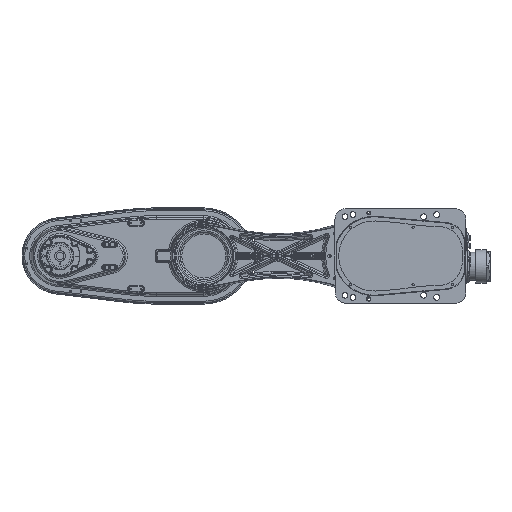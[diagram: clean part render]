
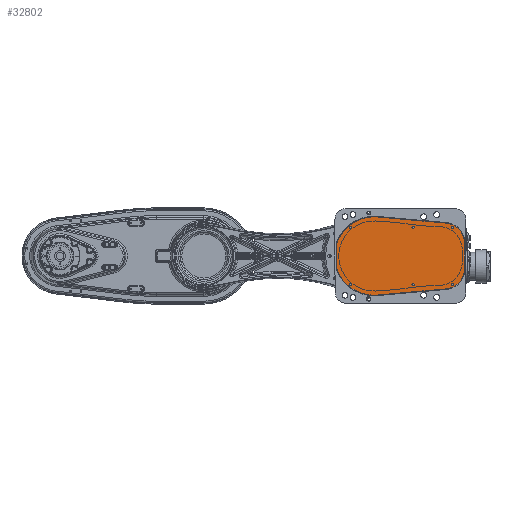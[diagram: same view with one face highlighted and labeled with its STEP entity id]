
A CAD part, front view. The second image highlights one B-rep face of the part: STEP entity #32802.
In plain terms, the highlighted planar face has unit normal (0, -1, 0).
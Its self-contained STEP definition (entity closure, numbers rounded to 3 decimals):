
#7219=DIRECTION('',(0.,0.,1.));
#7220=VECTOR('',#7219,37.094);
#7221=CARTESIAN_POINT('',(-71.,6.,-18.547));
#7222=LINE('',#7221,#7220);
#7223=CARTESIAN_POINT('',(-41.,6.,18.547));
#7224=DIRECTION('',(0.,1.,0.));
#7225=DIRECTION('',(-1.,0.,0.));
#7226=AXIS2_PLACEMENT_3D('',#7223,#7224,#7225);
#7228=CARTESIAN_POINT('',(0.,6.,0.));
#7229=DIRECTION('',(0.,1.,0.));
#7230=DIRECTION('',(-0.911,0.,0.412));
#7231=AXIS2_PLACEMENT_3D('',#7228,#7229,#7230);
#7233=CARTESIAN_POINT('',(0.,6.,0.));
#7234=DIRECTION('',(0.,1.,0.));
#7235=DIRECTION('',(0.,0.,1.));
#7236=AXIS2_PLACEMENT_3D('',#7233,#7234,#7235);
#7238=DIRECTION('',(0.996,0.,-0.09));
#7239=VECTOR('',#7238,132.216);
#7240=CARTESIAN_POINT('',(6.723,6.,74.698));
#7241=LINE('',#7240,#7239);
#7242=CARTESIAN_POINT('',(135.,6.,25.));
#7243=DIRECTION('',(0.,1.,0.));
#7244=DIRECTION('',(0.09,0.,0.996));
#7245=AXIS2_PLACEMENT_3D('',#7242,#7243,#7244);
#7247=DIRECTION('',(0.,0.,-1.));
#7248=VECTOR('',#7247,50.);
#7249=CARTESIAN_POINT('',(173.,6.,25.));
#7250=LINE('',#7249,#7248);
#7251=CARTESIAN_POINT('',(135.,6.,-25.));
#7252=DIRECTION('',(0.,1.,0.));
#7253=DIRECTION('',(1.,0.,0.));
#7254=AXIS2_PLACEMENT_3D('',#7251,#7252,#7253);
#7256=DIRECTION('',(-0.996,0.,-0.09));
#7257=VECTOR('',#7256,132.216);
#7258=CARTESIAN_POINT('',(138.406,6.,-62.847));
#7259=LINE('',#7258,#7257);
#7260=CARTESIAN_POINT('',(0.,6.,0.));
#7261=DIRECTION('',(0.,1.,0.));
#7262=DIRECTION('',(0.09,0.,-0.996));
#7263=AXIS2_PLACEMENT_3D('',#7260,#7261,#7262);
#7265=CARTESIAN_POINT('',(-41.,6.,-18.547));
#7266=DIRECTION('',(0.,1.,0.));
#7267=DIRECTION('',(-0.911,0.,-0.412));
#7268=AXIS2_PLACEMENT_3D('',#7265,#7266,#7267);
#7270=CARTESIAN_POINT('',(-45.,6.,-55.));
#7271=DIRECTION('',(0.,-1.,0.));
#7272=DIRECTION('',(1.,0.,0.));
#7273=AXIS2_PLACEMENT_3D('',#7270,#7271,#7272);
#7275=CARTESIAN_POINT('',(-45.,6.,-55.));
#7276=DIRECTION('',(0.,-1.,0.));
#7277=DIRECTION('',(-1.,0.,0.));
#7278=AXIS2_PLACEMENT_3D('',#7275,#7276,#7277);
#7280=CARTESIAN_POINT('',(-45.,6.,55.));
#7281=DIRECTION('',(0.,-1.,0.));
#7282=DIRECTION('',(1.,0.,0.));
#7283=AXIS2_PLACEMENT_3D('',#7280,#7281,#7282);
#7285=CARTESIAN_POINT('',(-45.,6.,55.));
#7286=DIRECTION('',(0.,-1.,0.));
#7287=DIRECTION('',(-1.,0.,0.));
#7288=AXIS2_PLACEMENT_3D('',#7285,#7286,#7287);
#7290=CARTESIAN_POINT('',(75.,6.,-55.));
#7291=DIRECTION('',(0.,-1.,0.));
#7292=DIRECTION('',(1.,0.,0.));
#7293=AXIS2_PLACEMENT_3D('',#7290,#7291,#7292);
#7295=CARTESIAN_POINT('',(75.,6.,-55.));
#7296=DIRECTION('',(0.,-1.,0.));
#7297=DIRECTION('',(-1.,0.,0.));
#7298=AXIS2_PLACEMENT_3D('',#7295,#7296,#7297);
#7300=CARTESIAN_POINT('',(75.,6.,55.));
#7301=DIRECTION('',(0.,-1.,0.));
#7302=DIRECTION('',(1.,0.,0.));
#7303=AXIS2_PLACEMENT_3D('',#7300,#7301,#7302);
#7305=CARTESIAN_POINT('',(75.,6.,55.));
#7306=DIRECTION('',(0.,-1.,0.));
#7307=DIRECTION('',(-1.,0.,0.));
#7308=AXIS2_PLACEMENT_3D('',#7305,#7306,#7307);
#7310=CARTESIAN_POINT('',(150.,6.,-55.));
#7311=DIRECTION('',(0.,-1.,0.));
#7312=DIRECTION('',(1.,0.,0.));
#7313=AXIS2_PLACEMENT_3D('',#7310,#7311,#7312);
#7315=CARTESIAN_POINT('',(150.,6.,-55.));
#7316=DIRECTION('',(0.,-1.,0.));
#7317=DIRECTION('',(-1.,0.,0.));
#7318=AXIS2_PLACEMENT_3D('',#7315,#7316,#7317);
#7320=CARTESIAN_POINT('',(150.,6.,55.));
#7321=DIRECTION('',(0.,-1.,0.));
#7322=DIRECTION('',(1.,0.,0.));
#7323=AXIS2_PLACEMENT_3D('',#7320,#7321,#7322);
#7325=CARTESIAN_POINT('',(150.,6.,55.));
#7326=DIRECTION('',(0.,-1.,0.));
#7327=DIRECTION('',(-1.,0.,0.));
#7328=AXIS2_PLACEMENT_3D('',#7325,#7326,#7327);
#16976=CARTESIAN_POINT('',(-71.,6.,-18.547));
#16977=CARTESIAN_POINT('',(-71.,6.,18.547));
#16978=VERTEX_POINT('',#16976);
#16979=VERTEX_POINT('',#16977);
#16980=CARTESIAN_POINT('',(-68.333,6.,30.912));
#16981=VERTEX_POINT('',#16980);
#16982=CARTESIAN_POINT('',(0.,6.,75.));
#16983=CARTESIAN_POINT('',(6.723,6.,74.698));
#16984=VERTEX_POINT('',#16982);
#16985=VERTEX_POINT('',#16983);
#16986=CARTESIAN_POINT('',(138.406,6.,62.847));
#16987=VERTEX_POINT('',#16986);
#16988=CARTESIAN_POINT('',(173.,6.,25.));
#16989=VERTEX_POINT('',#16988);
#16990=CARTESIAN_POINT('',(173.,6.,-25.));
#16991=VERTEX_POINT('',#16990);
#16992=CARTESIAN_POINT('',(138.406,6.,-62.847));
#16993=VERTEX_POINT('',#16992);
#16994=CARTESIAN_POINT('',(6.723,6.,-74.698));
#16995=VERTEX_POINT('',#16994);
#16996=CARTESIAN_POINT('',(-68.333,6.,-30.912));
#16997=VERTEX_POINT('',#16996);
#16998=CARTESIAN_POINT('',(-42.75,6.,-55.));
#16999=CARTESIAN_POINT('',(-47.25,6.,-55.));
#17000=VERTEX_POINT('',#16998);
#17001=VERTEX_POINT('',#16999);
#17002=CARTESIAN_POINT('',(-42.75,6.,55.));
#17003=CARTESIAN_POINT('',(-47.25,6.,55.));
#17004=VERTEX_POINT('',#17002);
#17005=VERTEX_POINT('',#17003);
#17006=CARTESIAN_POINT('',(77.25,6.,-55.));
#17007=CARTESIAN_POINT('',(72.75,6.,-55.));
#17008=VERTEX_POINT('',#17006);
#17009=VERTEX_POINT('',#17007);
#17010=CARTESIAN_POINT('',(77.25,6.,55.));
#17011=CARTESIAN_POINT('',(72.75,6.,55.));
#17012=VERTEX_POINT('',#17010);
#17013=VERTEX_POINT('',#17011);
#17014=CARTESIAN_POINT('',(152.25,6.,-55.));
#17015=CARTESIAN_POINT('',(147.75,6.,-55.));
#17016=VERTEX_POINT('',#17014);
#17017=VERTEX_POINT('',#17015);
#17018=CARTESIAN_POINT('',(152.25,6.,55.));
#17019=CARTESIAN_POINT('',(147.75,6.,55.));
#17020=VERTEX_POINT('',#17018);
#17021=VERTEX_POINT('',#17019);
#32748=CARTESIAN_POINT('',(51.,6.,-0.023));
#32749=DIRECTION('',(0.,1.,0.));
#32750=DIRECTION('',(0.,0.,1.));
#32751=AXIS2_PLACEMENT_3D('',#32748,#32749,#32750);
#32752=PLANE('',#32751);
#32753=ORIENTED_EDGE('',*,*,#32614,.T.);
#32754=ORIENTED_EDGE('',*,*,#32629,.T.);
#32755=ORIENTED_EDGE('',*,*,#32645,.T.);
#32756=ORIENTED_EDGE('',*,*,#32643,.T.);
#32757=ORIENTED_EDGE('',*,*,#32659,.T.);
#32758=ORIENTED_EDGE('',*,*,#32673,.T.);
#32759=ORIENTED_EDGE('',*,*,#32687,.T.);
#32760=ORIENTED_EDGE('',*,*,#32701,.T.);
#32761=ORIENTED_EDGE('',*,*,#32715,.T.);
#32762=ORIENTED_EDGE('',*,*,#32729,.T.);
#32763=ORIENTED_EDGE('',*,*,#32742,.T.);
#32764=EDGE_LOOP('',(#32753,#32754,#32755,#32756,#32757,#32758,#32759,#32760,
#32761,#32762,#32763));
#32765=FACE_OUTER_BOUND('',#32764,.F.);
#32767=ORIENTED_EDGE('',*,*,#32766,.T.);
#32769=ORIENTED_EDGE('',*,*,#32768,.T.);
#32770=EDGE_LOOP('',(#32767,#32769));
#32771=FACE_BOUND('',#32770,.F.);
#32773=ORIENTED_EDGE('',*,*,#32772,.T.);
#32775=ORIENTED_EDGE('',*,*,#32774,.T.);
#32776=EDGE_LOOP('',(#32773,#32775));
#32777=FACE_BOUND('',#32776,.F.);
#32779=ORIENTED_EDGE('',*,*,#32778,.T.);
#32781=ORIENTED_EDGE('',*,*,#32780,.T.);
#32782=EDGE_LOOP('',(#32779,#32781));
#32783=FACE_BOUND('',#32782,.F.);
#32785=ORIENTED_EDGE('',*,*,#32784,.T.);
#32787=ORIENTED_EDGE('',*,*,#32786,.T.);
#32788=EDGE_LOOP('',(#32785,#32787));
#32789=FACE_BOUND('',#32788,.F.);
#32791=ORIENTED_EDGE('',*,*,#32790,.T.);
#32793=ORIENTED_EDGE('',*,*,#32792,.T.);
#32794=EDGE_LOOP('',(#32791,#32793));
#32795=FACE_BOUND('',#32794,.F.);
#32797=ORIENTED_EDGE('',*,*,#32796,.T.);
#32799=ORIENTED_EDGE('',*,*,#32798,.T.);
#32800=EDGE_LOOP('',(#32797,#32799));
#32801=FACE_BOUND('',#32800,.F.);
#7227=CIRCLE('',#7226,30.);
#7232=CIRCLE('',#7231,75.);
#7237=CIRCLE('',#7236,75.);
#7246=CIRCLE('',#7245,38.);
#7255=CIRCLE('',#7254,38.);
#7264=CIRCLE('',#7263,75.);
#7269=CIRCLE('',#7268,30.);
#7274=CIRCLE('',#7273,2.25);
#7279=CIRCLE('',#7278,2.25);
#7284=CIRCLE('',#7283,2.25);
#7289=CIRCLE('',#7288,2.25);
#7294=CIRCLE('',#7293,2.25);
#7299=CIRCLE('',#7298,2.25);
#7304=CIRCLE('',#7303,2.25);
#7309=CIRCLE('',#7308,2.25);
#7314=CIRCLE('',#7313,2.25);
#7319=CIRCLE('',#7318,2.25);
#7324=CIRCLE('',#7323,2.25);
#7329=CIRCLE('',#7328,2.25);
#32614=EDGE_CURVE('',#16978,#16979,#7222,.T.);
#32629=EDGE_CURVE('',#16979,#16981,#7227,.T.);
#32643=EDGE_CURVE('',#16984,#16985,#7237,.T.);
#32645=EDGE_CURVE('',#16981,#16984,#7232,.T.);
#32659=EDGE_CURVE('',#16985,#16987,#7241,.T.);
#32673=EDGE_CURVE('',#16987,#16989,#7246,.T.);
#32687=EDGE_CURVE('',#16989,#16991,#7250,.T.);
#32701=EDGE_CURVE('',#16991,#16993,#7255,.T.);
#32715=EDGE_CURVE('',#16993,#16995,#7259,.T.);
#32729=EDGE_CURVE('',#16995,#16997,#7264,.T.);
#32742=EDGE_CURVE('',#16997,#16978,#7269,.T.);
#32766=EDGE_CURVE('',#17000,#17001,#7274,.T.);
#32768=EDGE_CURVE('',#17001,#17000,#7279,.T.);
#32772=EDGE_CURVE('',#17004,#17005,#7284,.T.);
#32774=EDGE_CURVE('',#17005,#17004,#7289,.T.);
#32778=EDGE_CURVE('',#17008,#17009,#7294,.T.);
#32780=EDGE_CURVE('',#17009,#17008,#7299,.T.);
#32784=EDGE_CURVE('',#17012,#17013,#7304,.T.);
#32786=EDGE_CURVE('',#17013,#17012,#7309,.T.);
#32790=EDGE_CURVE('',#17016,#17017,#7314,.T.);
#32792=EDGE_CURVE('',#17017,#17016,#7319,.T.);
#32796=EDGE_CURVE('',#17020,#17021,#7324,.T.);
#32798=EDGE_CURVE('',#17021,#17020,#7329,.T.);
#32802=ADVANCED_FACE('',(#32765,#32771,#32777,#32783,#32789,#32795,#32801),
#32752,.F.);
